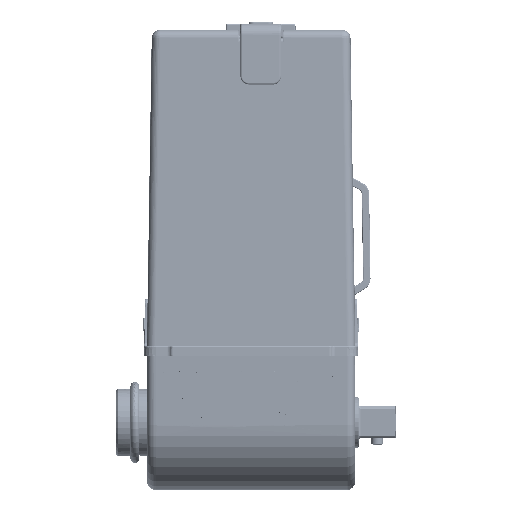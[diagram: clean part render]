
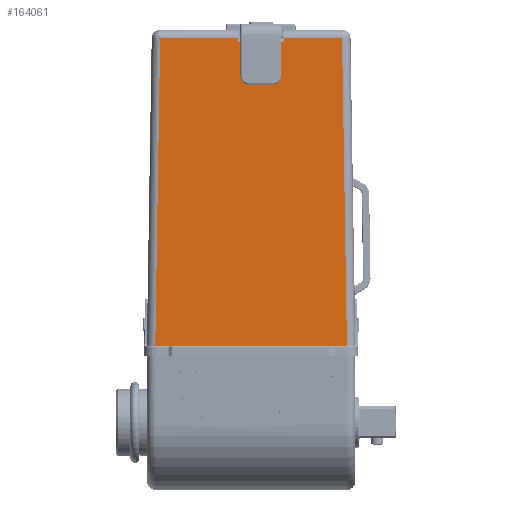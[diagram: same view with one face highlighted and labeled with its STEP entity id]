
A CAD part, left-side view. The second image highlights one B-rep face of the part: STEP entity #164061.
In plain terms, the highlighted planar face has unit normal (-1, 0, 0.016).
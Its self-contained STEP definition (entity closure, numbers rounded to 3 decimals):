
#13673=CARTESIAN_POINT('',(-19.316,-8.752,
102.333));
#13674=CARTESIAN_POINT('',(-19.319,-8.752,
102.12));
#13675=CARTESIAN_POINT('',(-19.325,-8.696,
101.711));
#13676=CARTESIAN_POINT('',(-19.334,-8.454,
101.127));
#13677=CARTESIAN_POINT('',(-19.342,-8.07,
100.629));
#13678=CARTESIAN_POINT('',(-19.348,-7.571,
100.247));
#13679=CARTESIAN_POINT('',(-19.352,-6.987,
100.006));
#13680=CARTESIAN_POINT('',(-19.353,-6.578,
99.952));
#13681=CARTESIAN_POINT('',(-19.353,-6.365,
99.952));
#13698=CARTESIAN_POINT('',(-19.316,-8.752,
102.333));
#13699=CARTESIAN_POINT('',(-19.298,-8.755,
103.459));
#13700=CARTESIAN_POINT('',(-19.262,-8.761,
105.715));
#13701=CARTESIAN_POINT('',(-19.209,-8.768,
109.109));
#13702=CARTESIAN_POINT('',(-19.173,-8.773,
111.379));
#13703=CARTESIAN_POINT('',(-19.156,-8.775,
112.516));
#13705=DIRECTION('',(-0.016,-0.016,-1.));
#13706=VECTOR('',#13705,91.062);
#13707=CARTESIAN_POINT('',(-19.139,-26.89,
113.539));
#13708=LINE('',#13707,#13706);
#13709=DIRECTION('',(0.016,-0.016,1.));
#13710=VECTOR('',#13709,91.062);
#13711=CARTESIAN_POINT('',(-20.57,28.32,
22.5));
#13712=LINE('',#13711,#13710);
#13734=DIRECTION('',(0.,1.,0.));
#13735=VECTOR('',#13734,0.823);
#13736=CARTESIAN_POINT('',(-19.156,3.045,
112.516));
#13737=LINE('',#13736,#13735);
#13756=DIRECTION('',(0.,1.,0.));
#13757=VECTOR('',#13756,0.823);
#13758=CARTESIAN_POINT('',(-19.156,-9.598,
112.516));
#13759=LINE('',#13758,#13757);
#13760=CARTESIAN_POINT('',(-19.316,3.022,
102.333));
#13761=CARTESIAN_POINT('',(-19.298,3.025,
103.468));
#13762=CARTESIAN_POINT('',(-19.262,3.031,
105.736));
#13763=CARTESIAN_POINT('',(-19.209,3.038,
109.112));
#13764=CARTESIAN_POINT('',(-19.173,3.043,
111.38));
#13765=CARTESIAN_POINT('',(-19.156,3.045,
112.516));
#13784=CARTESIAN_POINT('',(-19.353,0.635,
99.952));
#13785=CARTESIAN_POINT('',(-19.353,0.848,
99.952));
#13786=CARTESIAN_POINT('',(-19.352,1.257,
100.006));
#13787=CARTESIAN_POINT('',(-19.348,1.841,
100.247));
#13788=CARTESIAN_POINT('',(-19.342,2.34,
100.629));
#13789=CARTESIAN_POINT('',(-19.334,2.724,
101.127));
#13790=CARTESIAN_POINT('',(-19.325,2.966,
101.711));
#13791=CARTESIAN_POINT('',(-19.319,3.022,
102.12));
#13792=CARTESIAN_POINT('',(-19.316,3.022,
102.333));
#13850=DIRECTION('',(0.,1.,0.));
#13851=VECTOR('',#13850,7.);
#13852=CARTESIAN_POINT('',(-19.353,-6.365,
99.952));
#13853=LINE('',#13852,#13851);
#13858=DIRECTION('',(0.016,0.017,1.));
#13859=VECTOR('',#13858,1.024);
#13860=CARTESIAN_POINT('',(-19.156,3.868,
112.516));
#13861=LINE('',#13860,#13859);
#13922=DIRECTION('',(0.,1.,0.));
#13923=VECTOR('',#13922,23.004);
#13924=CARTESIAN_POINT('',(-19.139,3.886,
113.539));
#13925=LINE('',#13924,#13923);
#13957=DIRECTION('',(0.,-1.,0.));
#13958=VECTOR('',#13957,56.64);
#13959=CARTESIAN_POINT('',(-20.57,28.32,
22.5));
#13960=LINE('',#13959,#13958);
#13988=CARTESIAN_POINT('',(-20.57,28.32,
22.5));
#14075=DIRECTION('',(0.,1.,0.));
#14076=VECTOR('',#14075,17.274);
#14077=CARTESIAN_POINT('',(-19.139,-26.89,
113.539));
#14078=LINE('',#14077,#14076);
#14079=DIRECTION('',(-0.016,0.017,-1.));
#14080=VECTOR('',#14079,1.024);
#14081=CARTESIAN_POINT('',(-19.139,-9.616,
113.539));
#14082=LINE('',#14081,#14080);
#114173=VERTEX_POINT('',#13988);
#114174=CARTESIAN_POINT('',(-19.139,26.89,
113.539));
#114175=VERTEX_POINT('',#114174);
#114176=CARTESIAN_POINT('',(-20.57,-28.32,
22.5));
#114177=VERTEX_POINT('',#114176);
#114195=VERTEX_POINT('',#13698);
#114196=VERTEX_POINT('',#13703);
#114197=CARTESIAN_POINT('',(-19.156,-9.598,
112.516));
#114198=VERTEX_POINT('',#114197);
#114199=CARTESIAN_POINT('',(-19.139,-9.616,
113.539));
#114200=VERTEX_POINT('',#114199);
#114201=CARTESIAN_POINT('',(-19.139,-26.89,
113.539));
#114202=VERTEX_POINT('',#114201);
#114203=CARTESIAN_POINT('',(-19.139,3.886,
113.539));
#114204=VERTEX_POINT('',#114203);
#114205=CARTESIAN_POINT('',(-19.156,3.868,
112.516));
#114206=VERTEX_POINT('',#114205);
#114207=CARTESIAN_POINT('',(-19.156,3.045,
112.516));
#114208=VERTEX_POINT('',#114207);
#114209=VERTEX_POINT('',#13760);
#114210=VERTEX_POINT('',#13784);
#114211=CARTESIAN_POINT('',(-19.353,-6.365,
99.952));
#114212=VERTEX_POINT('',#114211);
#164027=CARTESIAN_POINT('',(-20.5,31.896,26.932));
#164028=DIRECTION('',(-1.,0.,0.016));
#164029=DIRECTION('',(0.,1.,0.));
#164030=AXIS2_PLACEMENT_3D('',#164027,#164028,#164029);
#164031=PLANE('',#164030);
#164033=ORIENTED_EDGE('',*,*,#164032,.T.);
#164035=ORIENTED_EDGE('',*,*,#164034,.F.);
#164037=ORIENTED_EDGE('',*,*,#164036,.F.);
#164039=ORIENTED_EDGE('',*,*,#164038,.F.);
#164041=ORIENTED_EDGE('',*,*,#164040,.T.);
#164043=ORIENTED_EDGE('',*,*,#164042,.F.);
#164045=ORIENTED_EDGE('',*,*,#164044,.T.);
#164047=ORIENTED_EDGE('',*,*,#164046,.F.);
#164049=ORIENTED_EDGE('',*,*,#164048,.F.);
#164051=ORIENTED_EDGE('',*,*,#164050,.F.);
#164053=ORIENTED_EDGE('',*,*,#164052,.F.);
#164055=ORIENTED_EDGE('',*,*,#164054,.F.);
#164057=ORIENTED_EDGE('',*,*,#164056,.F.);
#164058=ORIENTED_EDGE('',*,*,#164010,.F.);
#164059=EDGE_LOOP('',(#164033,#164035,#164037,#164039,#164041,#164043,#164045,
#164047,#164049,#164051,#164053,#164055,#164057,#164058));
#164060=FACE_OUTER_BOUND('',#164059,.F.);
#13682=B_SPLINE_CURVE_WITH_KNOTS('',3,(#13673,#13674,#13675,#13676,#13677,
#13678,#13679,#13680,#13681),.UNSPECIFIED.,.F.,.F.,(4,1,1,1,1,1,4),(0.,
0.167,0.333,0.5,0.667,0.833,
1.),.UNSPECIFIED.);
#13704=B_SPLINE_CURVE_WITH_KNOTS('',3,(#13698,#13699,#13700,#13701,#13702,
#13703),.UNSPECIFIED.,.F.,.F.,(4,1,1,4),(0.,0.333,
0.667,1.),.UNSPECIFIED.);
#13766=B_SPLINE_CURVE_WITH_KNOTS('',3,(#13760,#13761,#13762,#13763,#13764,
#13765),.UNSPECIFIED.,.F.,.F.,(4,1,1,4),(0.,0.333,
0.667,1.),.UNSPECIFIED.);
#13793=B_SPLINE_CURVE_WITH_KNOTS('',3,(#13784,#13785,#13786,#13787,#13788,
#13789,#13790,#13791,#13792),.UNSPECIFIED.,.F.,.F.,(4,1,1,1,1,1,4),(0.,
0.167,0.333,0.5,0.667,0.833,
1.),.UNSPECIFIED.);
#164010=EDGE_CURVE('',#114195,#114212,#13682,.T.);
#164032=EDGE_CURVE('',#114195,#114196,#13704,.T.);
#164034=EDGE_CURVE('',#114198,#114196,#13759,.T.);
#164036=EDGE_CURVE('',#114200,#114198,#14082,.T.);
#164038=EDGE_CURVE('',#114202,#114200,#14078,.T.);
#164040=EDGE_CURVE('',#114202,#114177,#13708,.T.);
#164042=EDGE_CURVE('',#114173,#114177,#13960,.T.);
#164044=EDGE_CURVE('',#114173,#114175,#13712,.T.);
#164046=EDGE_CURVE('',#114204,#114175,#13925,.T.);
#164048=EDGE_CURVE('',#114206,#114204,#13861,.T.);
#164050=EDGE_CURVE('',#114208,#114206,#13737,.T.);
#164052=EDGE_CURVE('',#114209,#114208,#13766,.T.);
#164054=EDGE_CURVE('',#114210,#114209,#13793,.T.);
#164056=EDGE_CURVE('',#114212,#114210,#13853,.T.);
#164061=ADVANCED_FACE('',(#164060),#164031,.T.);
